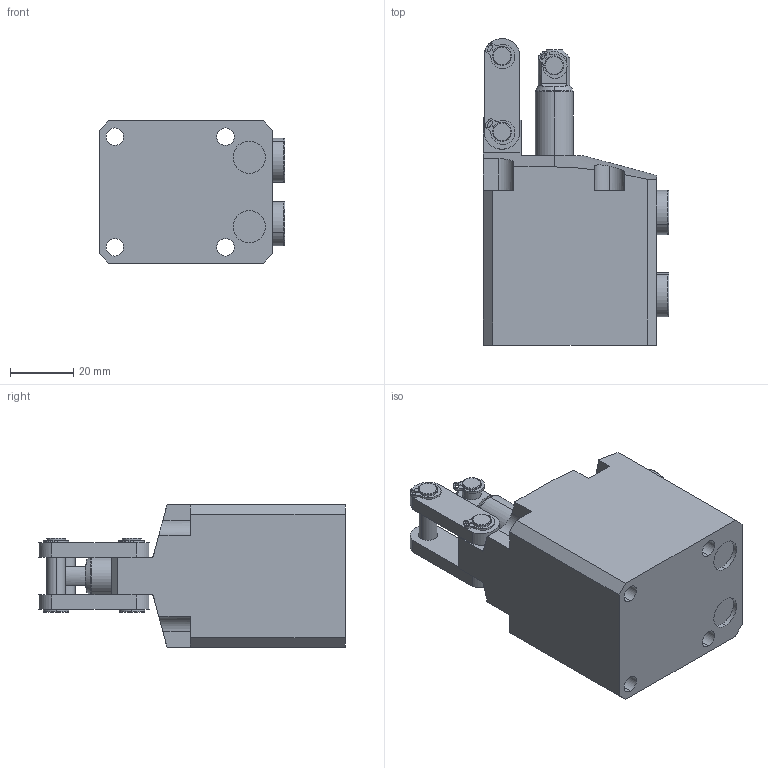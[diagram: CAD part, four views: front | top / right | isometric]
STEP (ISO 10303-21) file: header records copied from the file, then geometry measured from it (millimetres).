
FILE_DESCRIPTION(/* description */ (''),/* implementation_level */ '2;1');
FILE_NAME(/* name */ 'BPC02-F.stp',/* time_stamp */ '2025-01-05T10:06:41+08:00',/* author */ (''),/* organization */ (''),/* preprocessor_version */ 'ST-DEVELOPER v16.7',/* originating_system */ 'SIEMENS PLM Software NX 12.0',/* authorisation */ '');
FILE_SCHEMA (('AUTOMOTIVE_DESIGN { 1 0 10303 214 3 1 1 1 }'));
Length unit declared in the file: millimetre
Products named in the file (5): BPC02-F-02; BPC02-F-03; BPC02-F-04; BPC02-F-01; BPC02-F_stp
Assembly tree (5 placements, depth 2):
  BPC02-F_stp
    BPC02-F-01
    BPC02-F-04  x2
    BPC02-F-03
    BPC02-F-02
Bounding box: 58.8 x 96.99 x 45 mm (x, y, z)
Volume: 141427.9 mm3; surface area: 27498.5 mm2
Topology: 5 solids, 5 shells, 271 faces, 676 edges, 434 vertices
Faces by surface type: plane 127, cylinder 107, torus 20, cone 17
Entity records: 7773 total; most frequent: CARTESIAN_POINT 1450, DIRECTION 1364, ORIENTED_EDGE 1260, EDGE_CURVE 630, AXIS2_PLACEMENT_3D 507, VERTEX_POINT 406, LINE 350, VECTOR 350
